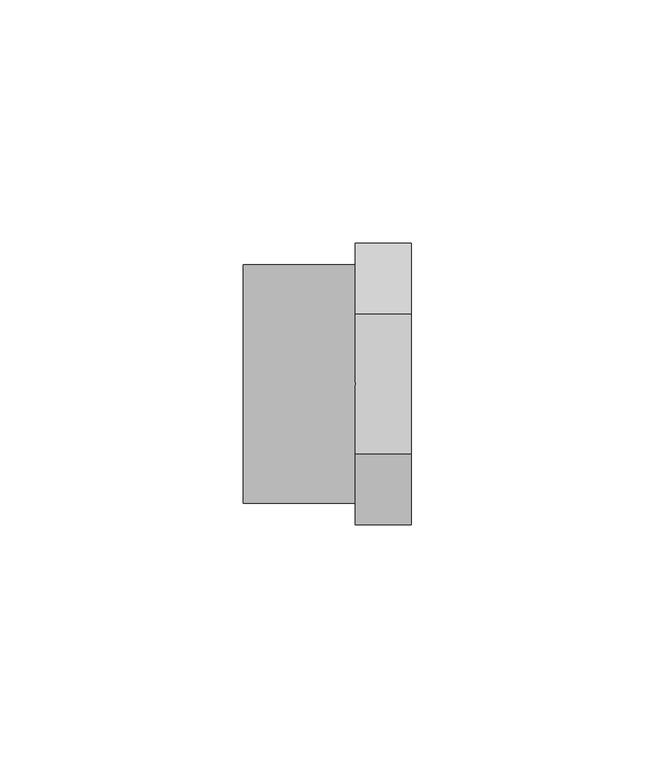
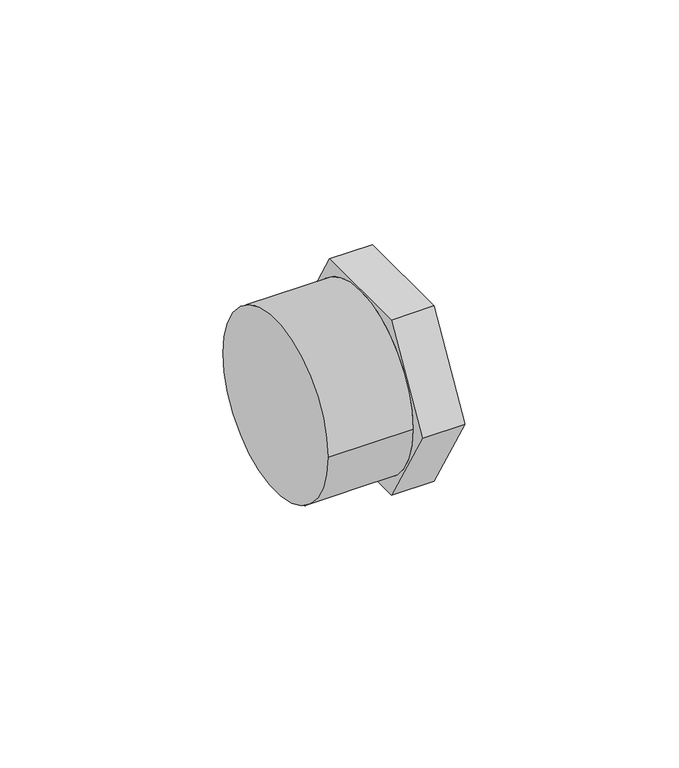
"""IFC4 building model written with IfcOpenShell, lengths in millimetres: pipe fitting geometry, 01011080 : Reducciones curtas M/F."""

from ifc_helpers import new_model, si_unit, point, frame, origin, origin_2d, place, context, project, spatial, circle_curve, trimmed, segment, composite_curve, outline, extrude, source, transform, mapped, element, save
from ifc_brep_helpers import plane_surface, cylinder_surface, advanced_brep


def pipe_fitting_ec2f7527(model_context):
    return source(origin(), model_context, "Body", "SolidModel", [
        extrude(outline(composite_curve([segment(trimmed(circle_curve(origin_2d(), 24.525), [point((-24.525, 0.0))], [point((24.525, 0.0))], False, "CARTESIAN"), True, "CONTINUOUS"), segment(trimmed(circle_curve(origin_2d(), 24.525), [point((24.525, 0.0))], [point((-24.525, 0.0))], False, "CARTESIAN"), True, "CONTINUOUS")], self_intersect=False)), frame((0.0, 0.0, 0.0), z_axis=(1.0, 0.0, 0.0), x_axis=(0.0, 1.0, 0.0)), (0.0, 0.0, 1.0), 23.0),
        advanced_brep(
        [(34.5, -14.4337567, 25.0), (34.5, -28.8675135, 0.0), (34.5, -14.4337567, -25.0), (34.5, 14.4337567, -25.0), (34.5, 28.8675135, 0.0), (34.5, 14.4337567, 25.0), (23.0, -14.4337567, 25.0), (23.0, 14.4337567, 25.0), (23.0, 28.8675135, 0.0), (23.0, 14.4337567, -25.0), (23.0, -14.4337567, -25.0), (23.0, -28.8675135, 0.0), (23.0, 24.525, 0.0), (23.0, -24.525, 0.0), (0.0, 24.525, 0.0), (0.0, -24.525, 0.0)],
        [
            (0, 1),
            (1, 2),
            (2, 3),
            (3, 4),
            (4, 5),
            (5, 0),
            (6, 7),
            (7, 8),
            (8, 9),
            (9, 10),
            (10, 11),
            (11, 6),
            (12, 13, circle_curve(frame((23.0, 0.0, 0.0), z_axis=(1.0, 0.0, 0.0), x_axis=(0.0, 1.0, 0.0)), 24.525)),
            (13, 12, circle_curve(frame((23.0, 0.0, 0.0), z_axis=(1.0, 0.0, 0.0), x_axis=(0.0, 1.0, 0.0)), 24.525)),
            (0, 6),
            (11, 1),
            (10, 2),
            (9, 3),
            (8, 4),
            (7, 5),
            (14, 15, circle_curve(frame((0.0, 0.0, 0.0), z_axis=(1.0, 0.0, 0.0), x_axis=(0.0, 1.0, 0.0)), 24.525)),
            (15, 13),
            (12, 14),
            (15, 14, circle_curve(frame((0.0, 0.0, 0.0), z_axis=(1.0, 0.0, 0.0), x_axis=(0.0, 1.0, 0.0)), 24.525)),
        ],
        [
            plane_surface(frame((34.5, -14.4337567, 25.0), z_axis=(1.0, 0.0, 0.0), x_axis=(0.0, -0.5000000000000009, -0.8660254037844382))),
            plane_surface(frame((23.0, -14.4337567, 25.0), z_axis=(-1.0, 0.0, 0.0), x_axis=(0.0, 0.5000000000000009, 0.8660254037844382))),
            plane_surface(frame((34.5, -14.4337567, 25.0), z_axis=(0.0, -0.8660254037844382, 0.5000000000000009), x_axis=(-1.0, 0.0, 0.0))),
            plane_surface(frame((34.5, -28.8675135, 0.0), z_axis=(0.0, -0.866025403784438, -0.500000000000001), x_axis=(-1.0, 0.0, 0.0))),
            plane_surface(frame((34.5, -14.4337567, -25.0), z_axis=(0.0, 0.0, -1.0), x_axis=(-1.0, 0.0, 0.0))),
            plane_surface(frame((34.5, 14.4337567, -25.0), z_axis=(0.0, 0.8660254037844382, -0.5000000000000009), x_axis=(-1.0, 0.0, 0.0))),
            plane_surface(frame((34.5, 28.8675135, 0.0), z_axis=(0.0, 0.866025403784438, 0.500000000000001), x_axis=(-1.0, 0.0, 0.0))),
            plane_surface(frame((34.5, 14.4337567, 25.0), z_axis=(0.0, 0.0, 1.0), x_axis=(-1.0, 0.0, 0.0))),
            cylinder_surface(frame((0.0, 0.0, 0.0), z_axis=(-1.0, 0.0, 0.0), x_axis=(0.0, 1.0, 0.0)), 24.525),
            plane_surface(frame((0.0, 0.0, 0.0), z_axis=(-1.0, 0.0, 0.0), x_axis=(0.0, 0.0, 1.0))),
        ],
        [
            (0, [[1, 2, 3, 4, 5, 6]]),
            (1, [[7, 8, 9, 10, 11, 12], [13, 14]]),
            (2, [[-1, 15, -12, 16]]),
            (3, [[-2, -16, -11, 17]]),
            (4, [[-3, -17, -10, 18]]),
            (5, [[-4, -18, -9, 19]]),
            (6, [[-5, -19, -8, 20]]),
            (7, [[-6, -20, -7, -15]]),
            (8, [[21, 22, -13, 23]]),
            (8, [[24, -23, -14, -22]]),
            (9, [[-21, -24]]),
        ],
    ),
    ])


if __name__ == "__main__":
    model = new_model("IFC4")
    model_context = context("Model", 3, world=origin())
    ifc_project = project(units=[si_unit("LENGTHUNIT", "METRE", prefix="MILLI")], contexts=[model_context])
    site = spatial("IfcSite", under=ifc_project)
    building = spatial("IfcBuilding", under=site)
    placement = place(None, origin())
    pipe_fitting_shape = pipe_fitting_ec2f7527(model_context)
    element("IfcPipeFitting", 1, ObjectType="01011080 : Reducciones curtas M/F", at=placement, inside=building, context=model_context, shape_type="MappedRepresentation", body=[
        mapped(pipe_fitting_shape, transform((0.0, 0.0, 0.0), x_axis=(1.0, 0.0, 0.0), y_axis=(0.0, 1.0, 0.0), z_axis=(0.0, 0.0, 1.0))),
    ])
    save(model, "model.ifc")
